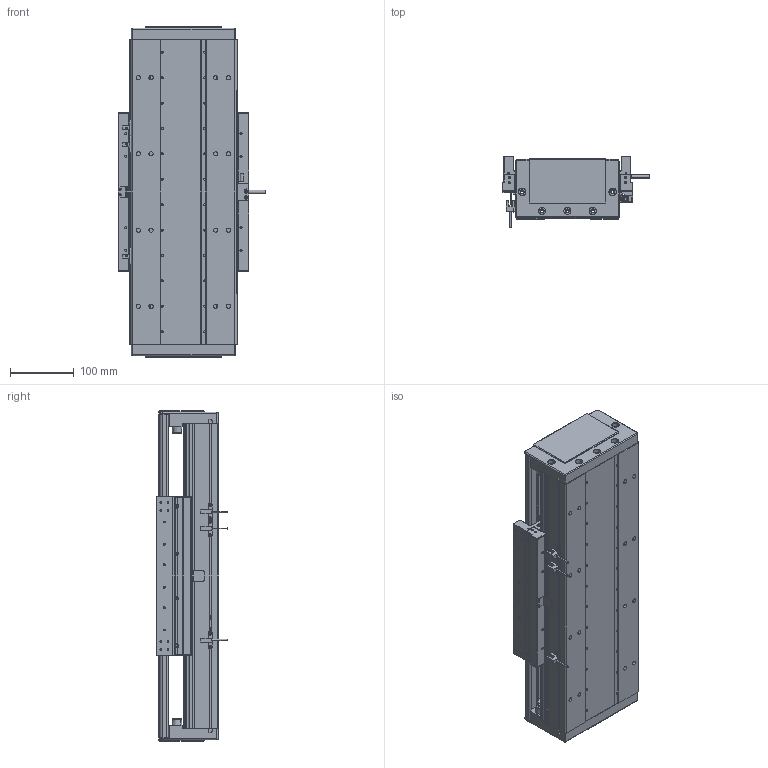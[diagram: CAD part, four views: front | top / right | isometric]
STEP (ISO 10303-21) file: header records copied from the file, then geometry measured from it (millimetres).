
FILE_DESCRIPTION (( 'STEP AP203' ), '1' );
FILE_NAME ('DA-C165-C3-T180-C010-0.2 直线电机.STEP', '2023-06-13T08:37:43', ( '微软用户' ), ( '微软中国' ), 'SwSTEP 2.0', 'SolidWorks 2019', '' );
FILE_SCHEMA (( 'CONFIG_CONTROL_DESIGN' ));
Length unit declared in the file: millimetre
Products named in the file (15): 复件 DA165-GYP-00 光电感应片^DA-C165-C3-T-C010-0.2-N 直线电机; 复件 XD-U-02L 磁栅尺^DA-C165-C3-T-C010-0.2-N 直线电机_T; DA-C165-C3-T180-C010-0.2 眻盄萇儂; 复件 DA165-DG-H-N-00 端盖^DA-C165-C3-T-C010-0.2-N 直线电机; 复件 DMA-010-0.2 读数头^DA-C165-C3-T-C010-0.2-N 直线电机; 复件 六角薄螺母 M3^DA-C165-C3-T-C010-0.2-N 直线电机_GB_FASTENER_NUT_STNAB M3-C; 珨极趙賑雄怢啣C3-wf; 复件 CU165 底座^IU-CU165-L 底座导轨_L480; 葩璃 CKM03-W075-C1C2-TP-3.0^DA-C165-C3-T-C010-0.2-N 眻盄萇儂; 葩璃 PM-T45^DA-C165-C3-T-C010-0.2-N 眻盄萇儂; 葩璃 CKM01-W075-TRL^DA-C165-C3-T-C010-0.2-N 眻盄萇儂; IU-CU165-L 菁釱絳寢; 复件 DA95-HXJ-00 缓冲橡胶^DA-C165-C3-T-C010-0.2-N 直线电机; 复件 DA165-T-002-00 盖板^DA-C165-C3-T-C010-0.2-N 直线电机_0840-002-00; 葩璃 DA95-GT-T-00^IU-CU165-L 菁釱絳寢_T
Assembly tree (30 placements, depth 3):
  DA-C165-C3-T180-C010-0.2 眻盄萇儂
    IU-CU165-L 菁釱絳寢
      复件 CU165 底座^IU-CU165-L 底座导轨_L480
      葩璃 DA95-GT-T-00^IU-CU165-L 菁釱絳寢_T  x4
    复件 DA165-DG-H-N-00 端盖^DA-C165-C3-T-C010-0.2-N 直线电机  x2
    复件 DA95-HXJ-00 缓冲橡胶^DA-C165-C3-T-C010-0.2-N 直线电机  x4
    复件 DA165-T-002-00 盖板^DA-C165-C3-T-C010-0.2-N 直线电机_0840-002-00
    复件 XD-U-02L 磁栅尺^DA-C165-C3-T-C010-0.2-N 直线电机_T
    葩璃 PM-T45^DA-C165-C3-T-C010-0.2-N 眻盄萇儂  x3
    葩璃 CKM01-W075-TRL^DA-C165-C3-T-C010-0.2-N 眻盄萇儂
    复件 DA165-GYP-00 光电感应片^DA-C165-C3-T-C010-0.2-N 直线电机
    复件 DMA-010-0.2 读数头^DA-C165-C3-T-C010-0.2-N 直线电机
    葩璃 CKM03-W075-C1C2-TP-3.0^DA-C165-C3-T-C010-0.2-N 眻盄萇儂
    复件 六角薄螺母 M3^DA-C165-C3-T-C010-0.2-N 直线电机_GB_FASTENER_NUT_STNAB M3-C  x8
    珨极趙賑雄怢啣C3-wf
Bounding box: 233 x 111.45 x 520 mm (x, y, z)
Volume: 5364006.6 mm3; surface area: 1297570.9 mm2
Topology: 68 solids, 118 shells, 3271 faces, 8440 edges, 5176 vertices
Faces by surface type: cylinder 1506, plane 1155, cone 552, torus 54, sphere 4
Entity records: 90829 total; most frequent: CARTESIAN_POINT 19578, DIRECTION 14986, ORIENTED_EDGE 13934, EDGE_CURVE 6967, AXIS2_PLACEMENT_3D 5646, VERTEX_POINT 4464, VECTOR 3694, LINE 3694
